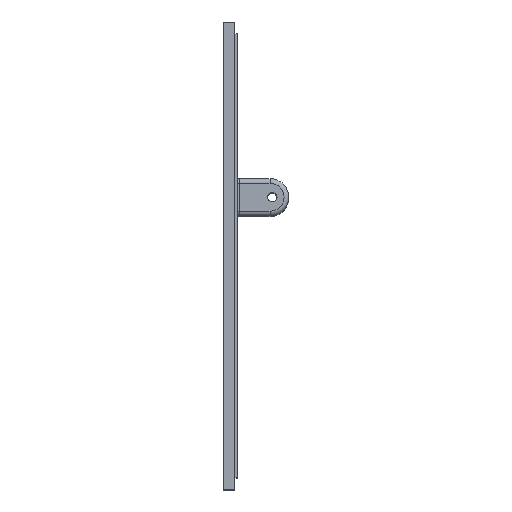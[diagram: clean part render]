
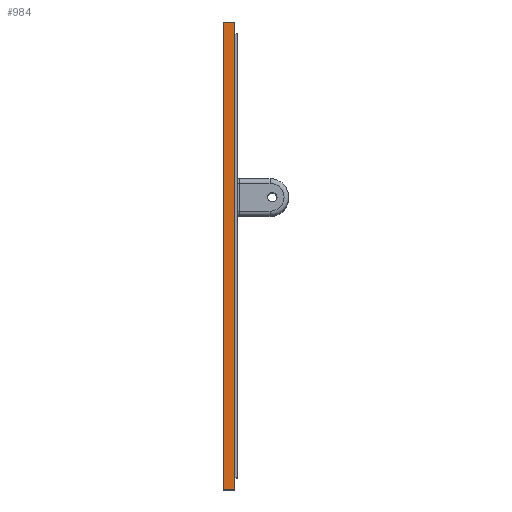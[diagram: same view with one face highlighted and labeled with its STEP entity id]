
A CAD part, top view. The second image highlights one B-rep face of the part: STEP entity #984.
In plain terms, the highlighted planar face has unit normal (0, 0, 1).
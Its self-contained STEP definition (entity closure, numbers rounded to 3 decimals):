
#984=ADVANCED_FACE('',(#1983),#1985,.T.);
#1983=FACE_BOUND('',#1984,.T.);
#1984=EDGE_LOOP('',(#2736,#2737,#2738,#2739));
#1985=PLANE('',#1986);
#1986=AXIS2_PLACEMENT_3D('',#1987,#1988,#1989);
#1987=CARTESIAN_POINT('',(0.,100.,110.));
#1988=DIRECTION('',(0.,0.,1.));
#1989=DIRECTION('',(0.,-1.,0.));
#2736=ORIENTED_EDGE('',*,*,#2914,.T.);
#2737=ORIENTED_EDGE('',*,*,#3130,.T.);
#2738=ORIENTED_EDGE('',*,*,#3131,.F.);
#2739=ORIENTED_EDGE('',*,*,#3132,.F.);
#2914=EDGE_CURVE('',#3359,#3357,#3360,.T.);
#3130=EDGE_CURVE('',#3357,#3687,#3689,.T.);
#3131=EDGE_CURVE('',#3690,#3687,#3691,.T.);
#3132=EDGE_CURVE('',#3359,#3690,#3692,.T.);
#3357=VERTEX_POINT('',#4231);
#3359=VERTEX_POINT('',#4235);
#3360=LINE('',#4236,#4237);
#3687=VERTEX_POINT('',#5013);
#3689=LINE('',#5017,#5018);
#3690=VERTEX_POINT('',#5020);
#3691=LINE('',#5021,#5022);
#3692=LINE('',#5024,#5025);
#4231=CARTESIAN_POINT('',(0.,0.,110.));
#4235=CARTESIAN_POINT('',(0.,100.,110.));
#4236=CARTESIAN_POINT('',(0.,100.,110.));
#4237=VECTOR('',#4238,1.);
#4238=DIRECTION('',(0.,-1.,0.));
#5013=CARTESIAN_POINT('',(2.5,0.,110.));
#5017=CARTESIAN_POINT('',(0.,0.,110.));
#5018=VECTOR('',#5019,1.);
#5019=DIRECTION('',(1.,0.,0.));
#5020=CARTESIAN_POINT('',(2.5,100.,110.));
#5021=CARTESIAN_POINT('',(2.5,100.,110.));
#5022=VECTOR('',#5023,1.);
#5023=DIRECTION('',(0.,-1.,0.));
#5024=CARTESIAN_POINT('',(0.,100.,110.));
#5025=VECTOR('',#5026,1.);
#5026=DIRECTION('',(1.,0.,0.));
